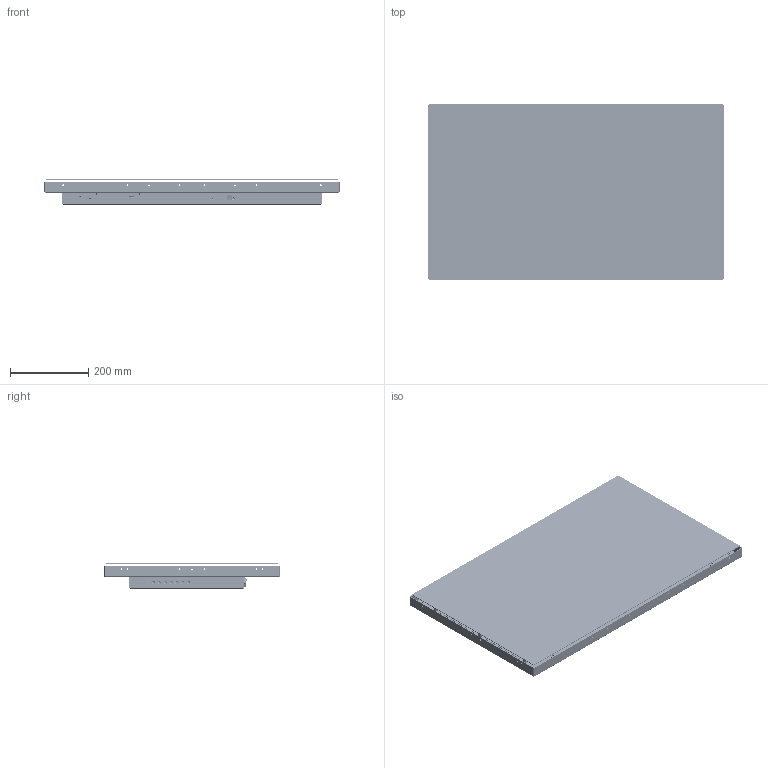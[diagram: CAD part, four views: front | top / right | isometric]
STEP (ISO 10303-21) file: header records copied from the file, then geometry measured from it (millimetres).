
FILE_DESCRIPTION((''),'2;1');
FILE_NAME('NOBEZEL-NOBRK_ASM','2013-10-07T',('stevec'),(''),'PRO/ENGINEER BY PARAMETRIC TECHNOLOGY CORPORATION, 2006200','PRO/ENGINEER BY PARAMETRIC TECHNOLOGY CORPORATION, 2006200','');
FILE_SCHEMA(('CONFIG_CONTROL_DESIGN'));
Length unit declared in the file: millimetre
Products named in the file (36): 3M-PCT_TOUCH_40293-32_1_1_1; 32_MAIN_FRAME_COVER-V1_1_1_1; TUBE-SHARP_1_1_1; 32_MAIN_FRAME_V1_ASM_1_ASM_2_AS_ASM; PRT0001_1_1_1; PINZHEN_1_1_1; MALY-DIANPIAN_1_1_1; DISPLAYPORT_ASM_1_ASM_1_ASM_1_ASM; VH23_1_1_1; 11-249F1G301_1_1_1; VGA-CON-11-159F2G208_1_1_1; C-96010__1_1_1; J15_J16_2SJ_S82X_014_1_1_1; RS232-CONNECTOR-11_099M2G104_1_; VGA_C22_1_1_1; 3M_32INCH_MB_ASM_1_ASM_1_ASM_1_ASM; USB-B-TYPE__1_1_1; 80-69702G001_ASM_1_ASM_1_ASM_1_ASM; RS232_CONNECTOR_1_1_1; AC_INLET_0711-S_1_1_1; 85-005AGG075_1_1_1; C32_KEYPAD_PCBA_BD_1_1_1; MANIFOLD_SOLID_BREP_963133_1_1; MANIFOLD_SOLID_BREP_963222_1_1; 43-52102G003_1_ASM_1_ASM_1_ASM; LED-1_1_1_1; CONNECTOR_TU2005WNR-2X5_1_1_1; 3M_32INCH_KEYPAD_ASM_1_ASM_1_AS_ASM; FILTER_GUARD-120MM_C_VEA_1_1_1; 3M-HAF-FILTER_B-TYPE_1_1_1; FILTER-RATINER-C_TYPE_1_1_1; FILTER_C-TYPE_ASM_ASM_1_ASM_1_A_ASM; SHIELDING_COVER-FILTER_ASM-1_1_; C3266PW-DISPLAY_20130327_ASM_1__ASM; C3266PW-DISPLAY_20130327_ASM_AS_ASM; NOBEZEL-NOBRK_ASM
Assembly tree (63 placements, depth 6):
  NOBEZEL-NOBRK_ASM
    C3266PW-DISPLAY_20130327_ASM_AS_ASM
      C3266PW-DISPLAY_20130327_ASM_1__ASM
        3M-PCT_TOUCH_40293-32_1_1_1
        32_MAIN_FRAME_V1_ASM_1_ASM_2_AS_ASM
          32_MAIN_FRAME_COVER-V1_1_1_1
          TUBE-SHARP_1_1_1  x12
        3M_32INCH_MB_ASM_1_ASM_1_ASM_1_ASM
          DISPLAYPORT_ASM_1_ASM_1_ASM_1_ASM
            PRT0001_1_1_1
            PINZHEN_1_1_1
            MALY-DIANPIAN_1_1_1
          VH23_1_1_1
          11-249F1G301_1_1_1
          VGA-CON-11-159F2G208_1_1_1
          C-96010__1_1_1
          J15_J16_2SJ_S82X_014_1_1_1  x2
          RS232-CONNECTOR-11_099M2G104_1_  x2
          VGA_C22_1_1_1
        80-69702G001_ASM_1_ASM_1_ASM_1_ASM
          USB-B-TYPE__1_1_1
        RS232_CONNECTOR_1_1_1
        AC_INLET_0711-S_1_1_1
        85-005AGG075_1_1_1  x10
        3M_32INCH_KEYPAD_ASM_1_ASM_1_AS_ASM
          C32_KEYPAD_PCBA_BD_1_1_1
          43-52102G003_1_ASM_1_ASM_1_ASM  x7
            MANIFOLD_SOLID_BREP_963133_1_1
            MANIFOLD_SOLID_BREP_963222_1_1
          LED-1_1_1_1
          CONNECTOR_TU2005WNR-2X5_1_1_1
        FILTER_C-TYPE_ASM_ASM_1_ASM_1_A_ASM
          FILTER_GUARD-120MM_C_VEA_1_1_1
          3M-HAF-FILTER_B-TYPE_1_1_1
          FILTER-RATINER-C_TYPE_1_1_1
        SHIELDING_COVER-FILTER_ASM-1_1_
Bounding box: 755.4 x 450.6 x 64.5 mm (x, y, z)
Volume: 1385324.1 mm3; surface area: 1700504.8 mm2
Topology: 60 solids, 790 shells, 10842 faces, 31578 edges, 21791 vertices
Faces by surface type: plane 5499, cylinder 5002, bspline 157, cone 126, torus 56, sphere 2
Entity records: 344414 total; most frequent: CARTESIAN_POINT 70222, DIRECTION 57152, ORIENTED_EDGE 53198, EDGE_CURVE 28934, VERTEX_POINT 20041, AXIS2_PLACEMENT_3D 19414, VECTOR 18324, LINE 18324
